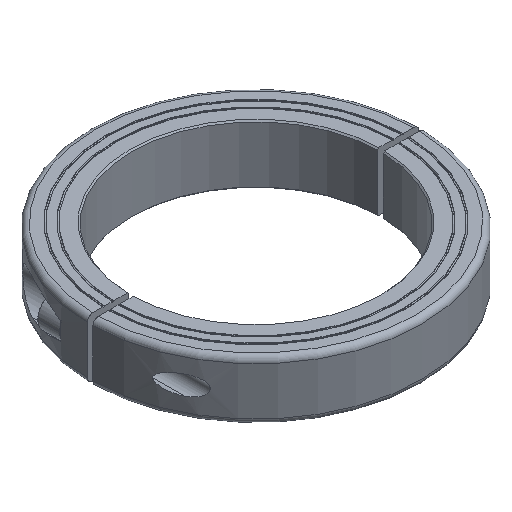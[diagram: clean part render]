
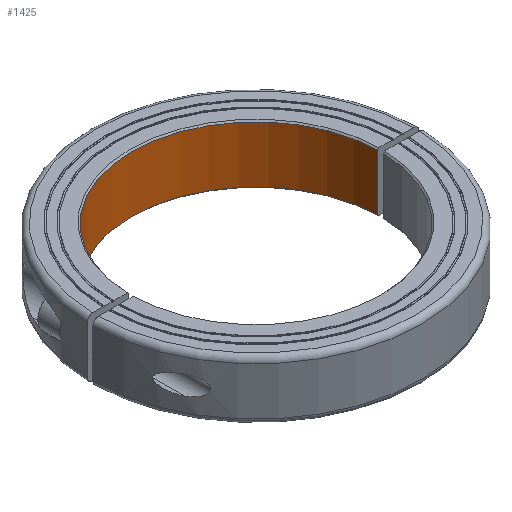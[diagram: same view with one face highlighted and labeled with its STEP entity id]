
A CAD part, isometric view. The second image highlights one B-rep face of the part: STEP entity #1425.
In plain terms, the highlighted cylindrical face has radius 67.5 mm (diameter 135 mm), a partial arc.
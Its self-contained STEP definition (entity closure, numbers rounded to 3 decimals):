
#248=CARTESIAN_POINT('',(-67.481,1.585,
-0.75));
#253=DIRECTION('',(0.,0.,-1.));
#254=VECTOR('',#253,30.5);
#255=CARTESIAN_POINT('',(-67.481,1.585,
-0.75));
#256=LINE('',#255,#254);
#260=CARTESIAN_POINT('',(-67.481,1.585,-31.25));
#298=CARTESIAN_POINT('',(67.481,1.585,-31.25));
#303=DIRECTION('',(0.,0.,1.));
#304=VECTOR('',#303,30.5);
#305=CARTESIAN_POINT('',(67.481,1.585,-31.25));
#306=LINE('',#305,#304);
#310=CARTESIAN_POINT('',(67.481,1.585,-0.75));
#383=CARTESIAN_POINT('',(0.,0.,-31.25));
#384=DIRECTION('',(0.,0.,1.));
#385=DIRECTION('',(1.,0.024,0.));
#386=AXIS2_PLACEMENT_3D('',#383,#384,#385);
#393=CARTESIAN_POINT('',(0.,0.,-0.75));
#394=DIRECTION('',(0.,0.,-1.));
#395=DIRECTION('',(-1.,0.024,0.));
#396=AXIS2_PLACEMENT_3D('',#393,#394,#395);
#883=VERTEX_POINT('',#248);
#884=VERTEX_POINT('',#260);
#886=VERTEX_POINT('',#298);
#888=VERTEX_POINT('',#310);
#1413=CARTESIAN_POINT('',(0.,0.,-0.75));
#1414=DIRECTION('',(0.,0.,-1.));
#1415=DIRECTION('',(-1.,0.,0.));
#1416=AXIS2_PLACEMENT_3D('',#1413,#1414,#1415);
#1417=CYLINDRICAL_SURFACE('',#1416,67.5);
#1418=ORIENTED_EDGE('',*,*,#1301,.F.);
#1420=ORIENTED_EDGE('',*,*,#1419,.T.);
#1421=ORIENTED_EDGE('',*,*,#1352,.F.);
#1422=ORIENTED_EDGE('',*,*,#1399,.T.);
#1423=EDGE_LOOP('',(#1418,#1420,#1421,#1422));
#1424=FACE_OUTER_BOUND('',#1423,.F.);
#387=CIRCLE('',#386,67.5);
#397=CIRCLE('',#396,67.5);
#1301=EDGE_CURVE('',#883,#884,#256,.T.);
#1352=EDGE_CURVE('',#886,#888,#306,.T.);
#1399=EDGE_CURVE('',#886,#884,#387,.T.);
#1419=EDGE_CURVE('',#883,#888,#397,.T.);
#1425=ADVANCED_FACE('',(#1424),#1417,.F.);
